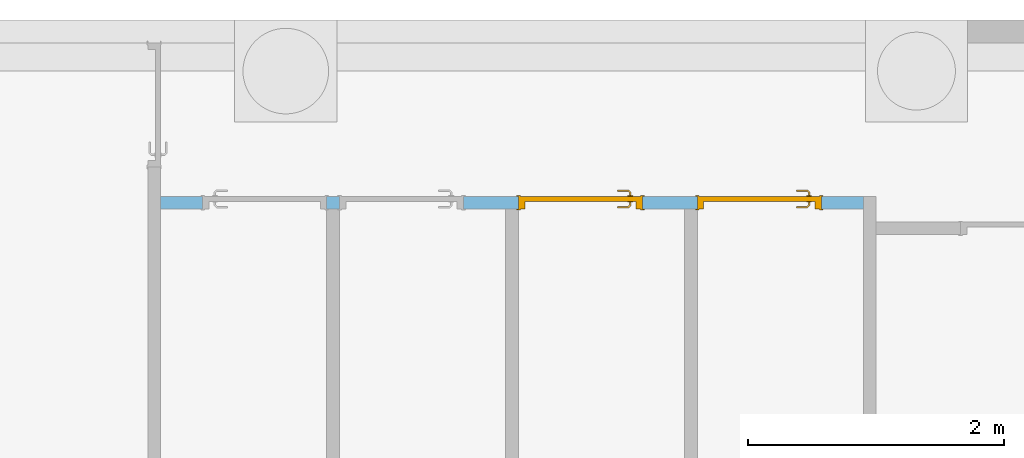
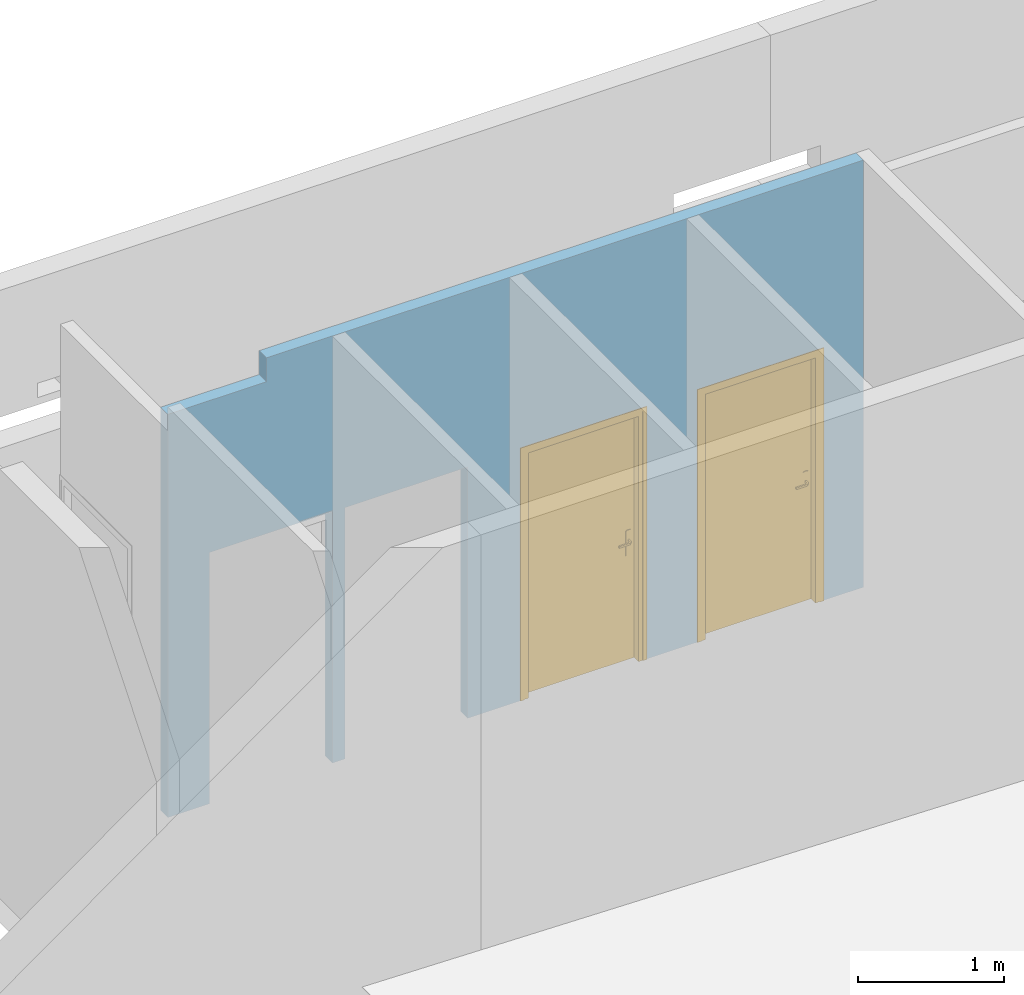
# One storey, part 6 of 14: 2 doors, 4 openings, plus 1 element that does not belong to this part.
"""IFC2X3 building model written with IfcOpenShell, lengths in centimetres."""

from ifc_helpers import new_model, entity, si_unit, converted_unit, derived_unit, direction, frame, frame_2d, origin, place, context, subcontext, project, spatial, polyline, rectangle, extrude, clip, bounded_halfspace, faceted_brep, source, transform, mapped, material, material_list, layer, layer_set, layer_usage, type_object, type_shapes, element, fill, save


model = new_model("IFC2X3")

# Units and contexts
model_context = context("Model", 3, precision=0.001, world=origin(), true_north=direction((6.12303176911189e-17, 1.0)))
body_context = subcontext(model_context, "Body", "Model", "MODEL_VIEW")
ifc_project = project(units=[si_unit("LENGTHUNIT", "METRE", prefix="CENTI"), si_unit("AREAUNIT", "SQUARE_METRE"), si_unit("VOLUMEUNIT", "CUBIC_METRE"), converted_unit("PLANEANGLEUNIT", "DEGREE", entity("IfcRatioMeasure", 0.0174532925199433), si_unit("PLANEANGLEUNIT", "RADIAN"), dimensions=[0, 0, 0, 0, 0, 0, 0]), si_unit("MASSUNIT", "GRAM", prefix="KILO"), derived_unit("MASSDENSITYUNIT", [(si_unit("MASSUNIT", "GRAM", prefix="KILO"), 1), (si_unit("LENGTHUNIT", "METRE"), -3)]), si_unit("TIMEUNIT", "SECOND"), si_unit("FREQUENCYUNIT", "HERTZ"), si_unit("THERMODYNAMICTEMPERATUREUNIT", "DEGREE_CELSIUS"), derived_unit("THERMALTRANSMITTANCEUNIT", [(si_unit("MASSUNIT", "GRAM", prefix="KILO"), 1), (si_unit("THERMODYNAMICTEMPERATUREUNIT", "KELVIN"), -1), (si_unit("TIMEUNIT", "SECOND"), -3)]), derived_unit("VOLUMETRICFLOWRATEUNIT", [(si_unit("LENGTHUNIT", "METRE"), 3), (si_unit("TIMEUNIT", "SECOND"), -1)]), si_unit("ELECTRICCURRENTUNIT", "AMPERE"), si_unit("ELECTRICVOLTAGEUNIT", "VOLT"), si_unit("POWERUNIT", "WATT"), si_unit("FORCEUNIT", "NEWTON"), si_unit("ILLUMINANCEUNIT", "LUX"), si_unit("LUMINOUSFLUXUNIT", "LUMEN"), si_unit("LUMINOUSINTENSITYUNIT", "CANDELA"), derived_unit("USERDEFINED", [(si_unit("MASSUNIT", "GRAM", prefix="KILO"), -1), (si_unit("LENGTHUNIT", "METRE"), -2), (si_unit("TIMEUNIT", "SECOND"), 3), (si_unit("LUMINOUSFLUXUNIT", "LUMEN"), 1)]), derived_unit("LINEARVELOCITYUNIT", [(si_unit("LENGTHUNIT", "METRE"), 1), (si_unit("TIMEUNIT", "SECOND"), -1)]), si_unit("PRESSUREUNIT", "PASCAL"), derived_unit("USERDEFINED", [(si_unit("LENGTHUNIT", "METRE"), -2), (si_unit("MASSUNIT", "GRAM", prefix="KILO"), 1), (si_unit("TIMEUNIT", "SECOND"), -2)])], contexts=[model_context])

# Site, building, storey
site_placement = place(None, origin())
site = spatial("IfcSite", under=ifc_project, at=site_placement, Name="Default", CompositionType="ELEMENT")
building_placement = place(site_placement, origin())
building = spatial("IfcBuilding", under=site, at=building_placement, Name="CAGE 03", CompositionType="ELEMENT")
storey_placement = place(building_placement, frame((0.0, 0.0, -42.0)))
storey = spatial("IfcBuildingStorey", under=building, at=storey_placement, Name="+3.58", CompositionType="ELEMENT", Elevation=-42.0000000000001)

# Wall, openings, doors
ifc_material_1 = material(Name="Bloc béton")
ifc_layer = layer(ifc_material_1, 10.0)
ifc_layer_set = layer_set([ifc_layer], Name="Mur de base:Int. Parpaing 100 mm")
ifc_layer_usage = layer_usage(ifc_layer_set, "AXIS2", "NEGATIVE", 5.0)
wall_type = type_object("IfcWallType", Name="Mur de base:Int. Parpaing 100 mm", PredefinedType="STANDARD", material=ifc_layer_set)
wall_placement = place(storey_placement, frame((9206.36582014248, 5150.66066607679, 0.0)))
wall = element("IfcWallStandardCase", 1, at=wall_placement, inside=storey, type_object=wall_type, material=ifc_layer_usage, Name="Mur de base:Int. Parpaing 100 mm", ObjectType="Mur de base:Int. Parpaing 100 mm", context=body_context, shape_type="Clipping", body=[
    clip(clip(extrude(rectangle(XDim=549.999999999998, YDim=9.99999999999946, at=frame_2d((274.999999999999, 4.04121180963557e-14), x_axis=(-1.0, 0.0))), origin(), (0.0, 0.0, 1.0), 357.0), bounded_halfspace(frame((78.0, -5.0, 337.0), z_axis=(0.0, 0.0, -1.0), x_axis=(0.0, -1.0, 0.0)), True, frame((78.0, -5.0, 337.0), z_axis=(0.0, 0.0, -1.0), x_axis=(0.0, -1.0, 0.0)), polyline([(0.0, 0.0), (0.0, 78.0), (-10.0, 78.0), (-10.0, 0.0), (0.0, 0.0)]))), bounded_halfspace(frame((78.0, 5.0, 337.0), z_axis=(1.0, 0.0, 0.0), x_axis=(0.0, 0.0, 1.0)), True, frame((78.0, 5.0, 337.0), z_axis=(1.0, 0.0, 0.0), x_axis=(0.0, 0.0, 1.0)), polyline([(0.0, 0.0), (20.0, 0.0), (20.0, 10.0), (0.0, 10.0), (0.0, 0.0)]))),
])
opening_1_placement = place(wall_placement, frame((420.0, -5.0, 0.0)))
opening_1 = element("IfcOpeningElement", 2, at=opening_1_placement, cuts=wall, Name="Int. Simple:HB93:1", ObjectType="Opening", context=body_context, shape_type="SweptSolid", body=[
    extrude(rectangle(XDim=210.000000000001, YDim=96.9999999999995, at=frame_2d((105.000000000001, 48.4999999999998), x_axis=(1.0, 0.0))), frame((0.0, 0.0, 0.0), z_axis=(0.0, 1.0, 0.0), x_axis=(0.0, 0.0, 1.0)), (0.0, 0.0, 1.0), 10.0),
])
opening_2_placement = place(wall_placement, frame((280.0, -5.0, 0.0)))
opening_2 = element("IfcOpeningElement", 3, at=opening_2_placement, cuts=wall, Name="Int. Simple:HB93:1", ObjectType="Opening", context=body_context, shape_type="SweptSolid", body=[
    extrude(rectangle(XDim=210.000000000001, YDim=96.9999999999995, at=frame_2d((105.000000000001, 48.4999999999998), x_axis=(1.0, 0.0))), frame((0.0, 0.0, 0.0), z_axis=(0.0, 1.0, 0.0), x_axis=(0.0, 0.0, 1.0)), (0.0, 0.0, 1.0), 10.0),
])
opening_3_placement = place(wall_placement, frame((33.0, -5.0, 0.0)))
element("IfcOpeningElement", 4, at=opening_3_placement, cuts=wall, Name="Int. Simple:HB93:1", ObjectType="Opening", context=body_context, shape_type="SweptSolid", body=[
    extrude(rectangle(XDim=210.000000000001, YDim=96.9999999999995, at=frame_2d((105.000000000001, 48.4999999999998), x_axis=(1.0, 0.0))), frame((0.0, 0.0, 0.0), z_axis=(0.0, 1.0, 0.0), x_axis=(0.0, 0.0, 1.0)), (0.0, 0.0, 1.0), 10.0),
])
opening_4_placement = place(wall_placement, frame((140.0, -5.0, 0.0)))
element("IfcOpeningElement", 5, at=opening_4_placement, cuts=wall, Name="Int. Simple:HB93:1", ObjectType="Opening", context=body_context, shape_type="SweptSolid", body=[
    extrude(rectangle(XDim=210.000000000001, YDim=96.9999999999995, at=frame_2d((105.000000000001, 48.4999999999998), x_axis=(1.0, 0.0))), frame((0.0, 0.0, 0.0), z_axis=(0.0, 1.0, 0.0), x_axis=(0.0, 0.0, 1.0)), (0.0, 0.0, 1.0), 10.0),
])
ifc_material_2 = material(Name="Finition Peinture - Blanc satiné")
ifc_material_3 = material(Name="Bois - Panneau de porte")
ifc_material_4 = material(Name="Bois - Cadre de porte")
ifc_material_list_1 = material_list([ifc_material_2, ifc_material_3, ifc_material_4])
ifc_material_list_2 = material_list([ifc_material_2, ifc_material_3, ifc_material_4])
door_style = type_object("IfcDoorStyle", Name="HB93", ConstructionType="NOTDEFINED", OperationType="SINGLE_SWING_LEFT", ParameterTakesPrecedence=False, Sizeable=False, material=ifc_material_list_2)
shared_shape = source(origin(), body_context, "Body", "Brep", [
    faceted_brep([(10.5352761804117, -0.500000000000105, 86.6003983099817), (11.5000000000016, -0.500000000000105, 87.0), (11.5000000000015, -0.500000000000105, 108.0), (10.5352761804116, -0.500000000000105, 108.399601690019), (9.50000000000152, -0.500000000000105, 108.535898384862), (8.46472381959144, -0.500000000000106, 108.399601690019), (7.50000000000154, -0.500000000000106, 108.0), (7.50000000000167, -0.500000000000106, 87.0), (8.46472381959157, -0.500000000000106, 86.6003983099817), (9.50000000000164, -0.500000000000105, 86.464101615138), (10.5352761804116, 0.0, 108.399601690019), (11.5000000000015, 0.0, 108.0), (11.5000000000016, 0.0, 87.0), (10.5352761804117, 0.0, 86.6003983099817), (9.50000000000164, 0.0, 86.464101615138), (8.46472381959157, 0.0, 86.6003983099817), (7.50000000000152, 0.0, 87.0), (7.50000000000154, 0.0, 108.0), (8.46472381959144, 0.0, 108.399601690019), (9.50000000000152, 0.0, 108.535898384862)], [[[0, 1, 2, 3, 4, 5, 6, 7, 8, 9]], [[10, 11, 12, 13, 14, 15, 16, 17, 18, 19]], [[16, 15, 8, 7]], [[8, 15, 14, 9]], [[14, 13, 0, 9]], [[13, 12, 1, 0]], [[2, 1, 12, 11]], [[11, 10, 3, 2]], [[3, 10, 19, 4]], [[19, 18, 5, 4]], [[18, 17, 6, 5]], [[7, 6, 17, 16]]]),
    faceted_brep([(10.5352761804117, 4.0, 86.6003983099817), (11.5000000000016, 4.0, 87.0), (11.5000000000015, 4.0, 108.0), (10.5352761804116, 4.0, 108.399601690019), (9.50000000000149, 4.0, 108.535898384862), (8.46472381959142, 4.0, 108.399601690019), (7.50000000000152, 4.0, 108.0), (7.50000000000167, 4.0, 87.0), (8.46472381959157, 4.0, 86.6003983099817), (9.50000000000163, 4.0, 86.464101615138), (10.5352761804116, 4.49999999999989, 108.399601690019), (11.5000000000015, 4.49999999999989, 108.0), (11.5000000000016, 4.49999999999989, 87.0), (10.5352761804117, 4.49999999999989, 86.6003983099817), (9.50000000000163, 4.49999999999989, 86.464101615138), (8.46472381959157, 4.49999999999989, 86.6003983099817), (7.50000000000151, 4.49999999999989, 87.0), (7.50000000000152, 4.49999999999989, 108.0), (8.46472381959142, 4.49999999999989, 108.399601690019), (9.50000000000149, 4.49999999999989, 108.535898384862)], [[[0, 1, 2, 3, 4, 5, 6, 7, 8, 9]], [[10, 11, 12, 13, 14, 15, 16, 17, 18, 19]], [[11, 10, 3, 2]], [[3, 10, 19, 4]], [[19, 18, 5, 4]], [[18, 17, 6, 5]], [[7, 6, 17, 16]], [[16, 15, 8, 7]], [[8, 15, 14, 9]], [[14, 13, 0, 9]], [[13, 12, 1, 0]], [[2, 1, 12, 11]]]),
    faceted_brep([(9.29747013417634, -0.500000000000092, 100.778044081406), (9.70252986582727, -0.50000000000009, 100.778044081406), (10.1000000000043, -0.500000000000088, 100.699999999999), (10.1000000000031, -0.500000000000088, 99.3000000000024), (9.70252986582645, -0.50000000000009, 99.2219559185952), (9.29747013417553, -0.500000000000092, 99.221955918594), (8.89999999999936, -0.500000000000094, 99.2999999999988), (8.89999999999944, -0.500000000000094, 100.7), (8.89999999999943, -3.26509507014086, 100.7), (9.29747013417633, -3.10045754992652, 100.778044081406), (10.9023585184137, -4.70534593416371, 100.778044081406), (11.0701397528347, -4.30028620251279, 100.778044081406), (9.70252986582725, -2.93267631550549, 100.778044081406), (10.1000000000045, -2.76803879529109, 100.7), (10.1000000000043, -2.76803879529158, 99.3000000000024), (9.70252986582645, -2.93267631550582, 99.2219559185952), (11.0701397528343, -4.30028620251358, 99.2219559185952), (10.9023585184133, -4.70534593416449, 99.221955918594), (9.29747013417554, -3.10045754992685, 99.221955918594), (8.89999999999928, -3.26509507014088, 99.2999999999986), (10.7377209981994, -5.10281606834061, 100.7), (11.2347772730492, -3.90281606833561, 100.7), (11.2347772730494, -3.90281606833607, 99.3000000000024), (10.7377209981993, -5.10281606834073, 99.2999999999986), (19.5018640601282, -5.1028160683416, 99.2999999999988), (19.5018640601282, -4.70534593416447, 99.221955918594), (19.5018640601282, -4.30028620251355, 99.2219559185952), (19.5018640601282, -3.90281606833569, 99.3000000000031), (19.5018640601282, -3.90281606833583, 100.7), (19.5018640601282, -4.30028620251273, 100.778044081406), (19.5018640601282, -4.70534593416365, 100.778044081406), (19.5018640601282, -5.10281606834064, 100.699999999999), (14.7307697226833, -5.10281606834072, 100.7), (15.28600190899, -4.5028160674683, 100.78786867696), (15.3683206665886, -3.9028160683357, 100.7), (15.3683206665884, -3.90281606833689, 99.3000000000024), (15.2860018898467, -4.50281607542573, 99.2121313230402), (14.7307700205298, -5.10281606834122, 99.2999999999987)], [[[0, 1, 2, 3, 4, 5, 6, 7]], [[8, 9, 0, 7]], [[9, 10, 11, 12, 1, 0]], [[12, 13, 2, 1]], [[3, 2, 13, 14]], [[14, 15, 4, 3]], [[15, 16, 17, 18, 5, 4]], [[18, 19, 6, 5]], [[7, 6, 19, 8]], [[20, 10, 9, 8]], [[11, 21, 13, 12]], [[14, 13, 21, 22]], [[22, 16, 15, 14]], [[17, 23, 19, 18]], [[8, 19, 23, 20]], [[24, 25, 26, 27, 28, 29, 30, 31]], [[32, 30, 33]], [[31, 30, 32]], [[10, 20, 32]], [[33, 34, 11]], [[21, 11, 34]], [[34, 29, 28]], [[30, 29, 33]], [[29, 34, 33]], [[10, 32, 33]], [[10, 33, 11]], [[22, 21, 34, 28, 27, 35]], [[35, 26, 36]], [[37, 36, 25]], [[22, 35, 16]], [[35, 27, 26]], [[24, 37, 25]], [[23, 17, 37]], [[37, 17, 36]], [[17, 16, 36]], [[16, 35, 36]], [[25, 36, 26]], [[20, 23, 37, 24, 31, 32]]]),
    faceted_brep([(9.29747013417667, 4.49999999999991, 100.778044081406), (8.89999999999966, 4.4999999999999, 100.7), (8.89999999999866, 4.4999999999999, 99.2999999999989), (9.2974701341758, 4.49999999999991, 99.221955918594), (9.70252986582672, 4.49999999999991, 99.2219559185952), (10.1000000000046, 4.49999999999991, 99.3000000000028), (10.1000000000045, 4.49999999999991, 100.7), (9.70252986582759, 4.49999999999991, 100.778044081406), (10.1000000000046, 6.7485204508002, 99.3000000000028), (10.1000000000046, 6.74852045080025, 100.7), (9.70252986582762, 6.91315797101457, 100.778044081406), (11.0838906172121, 8.29451872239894, 100.778044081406), (10.9161093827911, 8.69957845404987, 100.778044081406), (9.29747013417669, 7.0809392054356, 100.778044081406), (8.89999999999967, 7.24557672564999, 100.7), (8.89999999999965, 7.2455767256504, 99.2999999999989), (9.29747013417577, 7.08093920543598, 99.221955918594), (10.9161093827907, 8.69957845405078, 99.221955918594), (11.0838906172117, 8.29451872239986, 99.2219559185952), (9.7025298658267, 6.91315797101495, 99.2219559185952), (11.2485281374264, 7.89704858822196, 99.3000000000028), (11.2485281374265, 7.89704858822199, 100.7), (10.7514718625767, 9.09704858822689, 100.7), (10.751471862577, 9.0970485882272, 99.2999999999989), (19.504578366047, 7.89704858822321, 99.3000000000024), (19.504578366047, 8.29451872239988, 99.2219559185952), (19.504578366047, 8.6995784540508, 99.221955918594), (19.504578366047, 9.09704858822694, 99.2999999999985), (19.504578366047, 9.09704858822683, 100.7), (19.504578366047, 8.69957845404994, 100.778044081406), (19.504578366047, 8.29451872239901, 100.778044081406), (19.504578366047, 7.89704858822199, 100.7), (15.3765520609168, 7.89704858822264, 99.3000000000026), (15.3765532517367, 7.89704858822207, 100.7), (15.294234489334, 8.49704858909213, 100.78786867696), (14.7445205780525, 9.09704858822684, 100.7), (14.7445204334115, 9.09704858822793, 99.2999999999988), (15.2942345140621, 8.49704858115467, 99.2121313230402)], [[[0, 1, 2, 3, 4, 5, 6, 7]], [[6, 5, 8, 9]], [[9, 10, 7, 6]], [[10, 11, 12, 13, 0, 7]], [[13, 14, 1, 0]], [[2, 1, 14, 15]], [[15, 16, 3, 2]], [[16, 17, 18, 19, 4, 3]], [[19, 8, 5, 4]], [[9, 8, 20, 21]], [[21, 11, 10, 9]], [[12, 22, 14, 13]], [[15, 14, 22, 23]], [[23, 17, 16, 15]], [[18, 20, 8, 19]], [[24, 25, 26, 27, 28, 29, 30, 31]], [[21, 20, 32, 24, 31, 33]], [[33, 30, 34]], [[35, 34, 29]], [[21, 33, 11]], [[33, 31, 30]], [[28, 35, 29]], [[22, 12, 35]], [[35, 12, 34]], [[12, 11, 34]], [[11, 33, 34]], [[29, 34, 30]], [[22, 35, 28, 27, 36, 23]], [[36, 26, 37]], [[27, 26, 36]], [[17, 23, 36]], [[37, 32, 18]], [[20, 18, 32]], [[32, 25, 24]], [[26, 25, 37]], [[25, 32, 37]], [[17, 36, 37]], [[17, 37, 18]]]),
    faceted_brep([(3.50000000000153, 4.0, 206.5), (93.5000000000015, 4.0, 206.5), (93.5000000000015, 4.0, 0.0), (3.50000000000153, 4.0, 0.0), (3.50000000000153, 0.0, 206.5), (3.50000000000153, 0.0, 0.0), (93.5000000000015, 0.0, 0.0), (93.5000000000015, 0.0, 206.5)], [[[0, 1, 2, 3]], [[4, 5, 6, 7]], [[1, 0, 4, 7]], [[2, 1, 7, 6]], [[3, 2, 6, 5]], [[0, 3, 5, 4]]]),
    faceted_brep([(0.0, 0.0, 0.0), (0.0, 10.0, 0.0), (5.0, 10.0, 0.0), (5.0, 4.0, 0.0), (3.50000000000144, 4.0, 0.0), (3.50000000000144, 0.0, 0.0), (0.0, 0.0, 210.0), (0.0, 10.0, 210.0), (97.0, 10.0, 210.0), (97.0, 10.0, 0.0), (92.0, 10.0, 0.0), (92.0, 10.0, 205.0), (5.0, 10.0, 205.0), (5.0, 4.0, 205.0), (92.0, 4.0, 205.0), (92.0, 4.0, 0.0), (93.4999999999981, 4.0, 0.0), (93.4999999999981, 4.0, 206.5), (3.50000000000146, 4.0, 206.5), (3.50000000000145, 0.0, 206.5), (93.4999999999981, 0.0, 206.5), (93.4999999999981, 0.0, 0.0), (97.0, 0.0, 0.0), (97.0, 0.0, 210.0)], [[[0, 1, 2, 3, 4, 5]], [[1, 0, 6, 7]], [[2, 1, 7, 8, 9, 10, 11, 12]], [[3, 2, 12, 13]], [[4, 3, 13, 14, 15, 16, 17, 18]], [[5, 4, 18, 19]], [[0, 5, 19, 20, 21, 22, 23, 6]], [[8, 23, 22, 9]], [[22, 21, 16, 15, 10, 9]], [[14, 11, 10, 15]], [[20, 17, 16, 21]], [[7, 6, 23, 8]], [[13, 12, 11, 14]], [[19, 18, 17, 20]]]),
    faceted_brep([(1.5, 10.0, 0.0), (-1.49999999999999, 10.0, 0.0), (-1.49999999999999, 10.5000000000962, 0.0), (1.5, 10.5000000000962, 0.0), (1.5, 10.0, 208.500000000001), (95.4999999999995, 10.0, 208.500000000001), (95.4999999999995, 10.0, 0.0), (98.4999999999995, 10.0, 0.0), (98.4999999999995, 10.0, 211.500000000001), (-1.49999999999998, 10.0, 211.500000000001), (-1.49999999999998, 10.5000000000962, 211.500000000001), (98.4999999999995, 10.5000000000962, 211.500000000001), (98.4999999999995, 10.5000000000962, 0.0), (95.4999999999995, 10.5000000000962, 0.0), (95.4999999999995, 10.5000000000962, 208.500000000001), (1.50000000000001, 10.5000000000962, 208.500000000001)], [[[0, 1, 2, 3]], [[1, 0, 4, 5, 6, 7, 8, 9]], [[2, 1, 9, 10]], [[3, 2, 10, 11, 12, 13, 14, 15]], [[0, 3, 15, 4]], [[6, 13, 12, 7]], [[5, 14, 13, 6]], [[11, 8, 7, 12]], [[10, 9, 8, 11]], [[4, 15, 14, 5]]]),
    faceted_brep([(-1.49999999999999, -0.5, 0.0), (1.5, -0.5, 0.0), (1.5, -0.5, 208.500000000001), (95.4999999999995, -0.5, 208.500000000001), (95.4999999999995, -0.5, 0.0), (98.4999999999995, -0.5, 0.0), (98.4999999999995, -0.5, 211.500000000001), (-1.49999999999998, -0.5, 211.500000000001), (-1.49999999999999, 0.0, 0.0), (-1.49999999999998, 0.0, 211.500000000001), (1.5, 0.0, 0.0), (98.4999999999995, 0.0, 211.500000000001), (98.4999999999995, 0.0, 0.0), (95.4999999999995, 0.0, 0.0), (95.4999999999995, 0.0, 208.500000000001), (1.50000000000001, 0.0, 208.500000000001)], [[[0, 1, 2, 3, 4, 5, 6, 7]], [[8, 0, 7, 9]], [[10, 8, 9, 11, 12, 13, 14, 15]], [[1, 10, 15, 2]], [[3, 14, 13, 4]], [[11, 6, 5, 12]], [[9, 7, 6, 11]], [[2, 15, 14, 3]], [[4, 13, 12, 5]], [[1, 0, 8, 10]]]),
])
type_shapes(door_style, [shared_shape])
door_1_placement = place(opening_2_placement, frame((97.0, 10.0, 0.0), z_axis=(0.0, 0.0, 1.0), x_axis=(-1.0, 0.0, 0.0)))
door_1 = element("IfcDoor", 6, at=door_1_placement, inside=storey, type_object=door_style, material=ifc_material_list_1, Name="Int. Simple:HB93", ObjectType="HB93", OverallHeight=210.000000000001, OverallWidth=96.9999999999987, context=body_context, shape_type="MappedRepresentation", body=[
    mapped(shared_shape, transform((0.0, 0.0, 0.0), scale=1.0)),
])
fill(opening_2, door_1)
ifc_material_list_3 = material_list([ifc_material_2, ifc_material_3, ifc_material_4])
door_2_placement = place(opening_1_placement, frame((97.0, 10.0, 0.0), z_axis=(0.0, 0.0, 1.0), x_axis=(-1.0, 0.0, 0.0)))
door_2 = element("IfcDoor", 7, at=door_2_placement, inside=storey, type_object=door_style, material=ifc_material_list_3, Name="Int. Simple:HB93", ObjectType="HB93", OverallHeight=210.000000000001, OverallWidth=96.9999999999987, context=body_context, shape_type="MappedRepresentation", body=[
    mapped(shared_shape, transform((0.0, 0.0, 0.0), scale=1.0)),
])
fill(opening_1, door_2)

save(model, "model.ifc")
